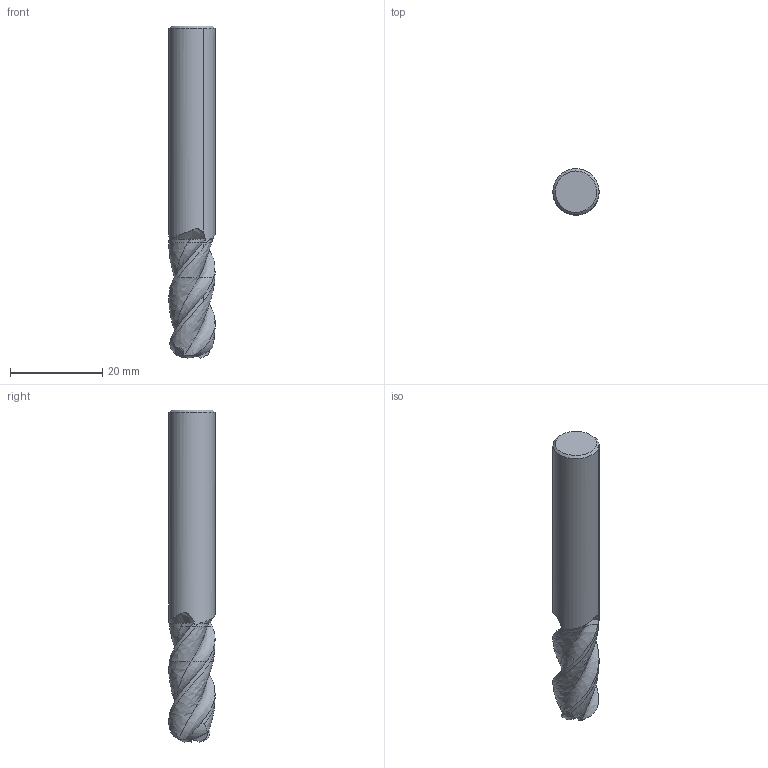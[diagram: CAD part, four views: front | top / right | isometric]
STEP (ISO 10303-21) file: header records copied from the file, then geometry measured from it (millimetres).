
FILE_DESCRIPTION(('CATIA V5 STEP','CAx-IF Rec.Pracs.--- Model Styling and Organization---1.2---2011-12-15'),'2;1');
FILE_NAME('C:\eit\appserv\eitdev\tmp\eit\transmagicconvert\319751\ECA-B-3 10-25C10R4-72 D1.stp','2017-10-31T07:07:55+00:00',('none'),('none'),'CATIA Version 5 Release 21 SP 5 (IN-10)','CATIA V5 STEP AP214','none');
FILE_SCHEMA(('AUTOMOTIVE_DESIGN { 1 0 10303 214 1 1 1 1 }'));
Length unit declared in the file: millimetre
Products named in the file (1): ECA-B-3 10-25C10R4-72
Bounding box: 10 x 10 x 71.91 mm (x, y, z)
Volume: 4903.2 mm3; surface area: 2481.6 mm2
Topology: 2 solids, 2 shells, 55 faces, 152 edges, 102 vertices
Faces by surface type: bspline 24, cylinder 13, plane 12, torus 4, cone 2
Entity records: 2659 total; most frequent: CARTESIAN_POINT 1531, ORIENTED_EDGE 290, EDGE_CURVE 145, DIRECTION 95, VERTEX_POINT 94, B_SPLINE_CURVE_WITH_KNOTS 65, ADVANCED_FACE 55, OVER_RIDING_STYLED_ITEM 55
